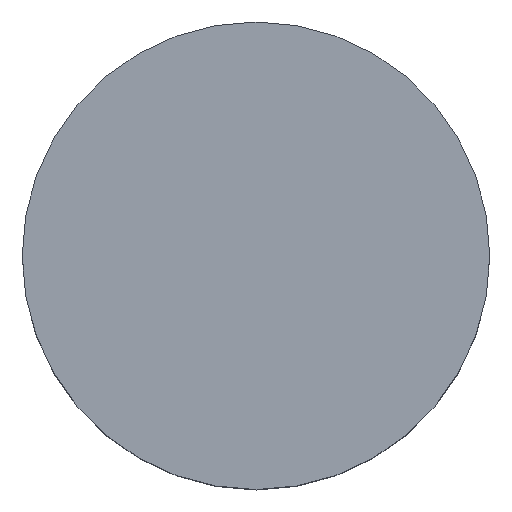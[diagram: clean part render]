
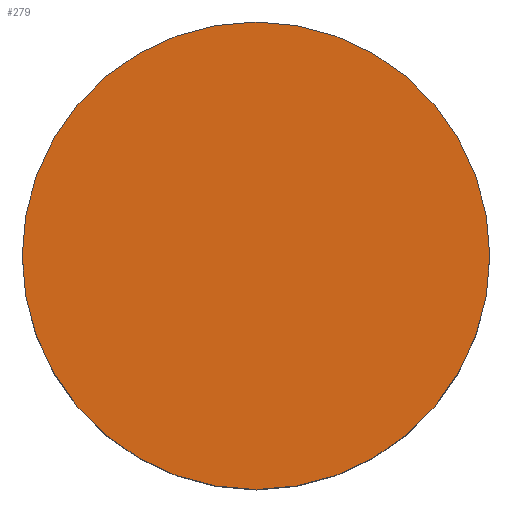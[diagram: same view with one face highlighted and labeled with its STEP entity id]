
A CAD part, top view. The second image highlights one B-rep face of the part: STEP entity #279.
In plain terms, the highlighted planar face has unit normal (0, 0, 1).
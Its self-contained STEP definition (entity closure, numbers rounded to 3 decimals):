
#29=PLANE('',#329);
#73=FACE_OUTER_BOUND('',#108,.T.);
#108=EDGE_LOOP('',(#233));
#142=CIRCLE('',#328,41.);
#166=VERTEX_POINT('',#502);
#192=EDGE_CURVE('',#166,#166,#142,.T.);
#233=ORIENTED_EDGE('',*,*,#192,.T.);
#279=ADVANCED_FACE('',(#73),#29,.T.);
#328=AXIS2_PLACEMENT_3D('',#503,#425,#426);
#329=AXIS2_PLACEMENT_3D('',#504,#427,#428);
#425=DIRECTION('center_axis',(0.,0.,1.));
#426=DIRECTION('ref_axis',(-1.,0.,0.));
#427=DIRECTION('center_axis',(0.,0.,1.));
#428=DIRECTION('ref_axis',(1.,0.,0.));
#502=CARTESIAN_POINT('',(41.,0.,49.));
#503=CARTESIAN_POINT('Origin',(0.,0.,49.));
#504=CARTESIAN_POINT('Origin',(0.,0.,
49.));
